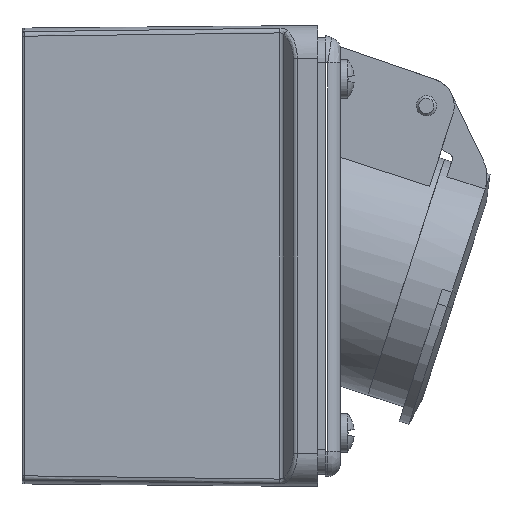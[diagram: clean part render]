
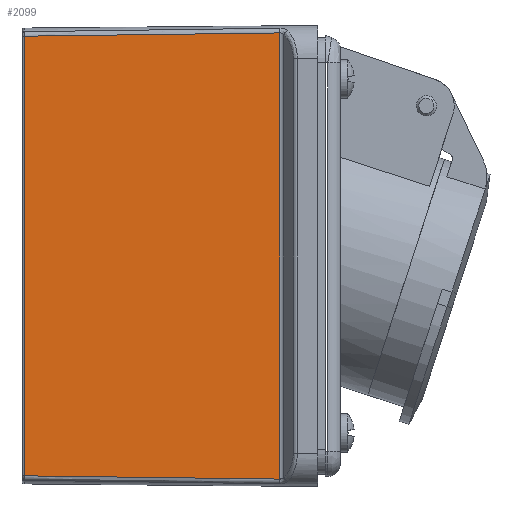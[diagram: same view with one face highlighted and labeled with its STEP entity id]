
A CAD part, front view. The second image highlights one B-rep face of the part: STEP entity #2099.
In plain terms, the highlighted planar face has unit normal (-0.009, -1, 0).
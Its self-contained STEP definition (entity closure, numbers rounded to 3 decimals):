
#1869=B_SPLINE_CURVE_WITH_KNOTS('',3,(#9731,#9732,#9733,#9734),
 .UNSPECIFIED.,.F.,.F.,(4,4),(0.,1.),.UNSPECIFIED.);
#1870=B_SPLINE_CURVE_WITH_KNOTS('',3,(#9738,#9739,#9740,#9741),
 .UNSPECIFIED.,.F.,.F.,(4,4),(0.,1.),.UNSPECIFIED.);
#2099=ADVANCED_FACE('',(#2346),#2219,.F.);
#2219=PLANE('',#5736);
#2346=FACE_OUTER_BOUND('',#2583,.T.);
#2583=EDGE_LOOP('',(#3552,#3553,#3554,#3555));
#3552=ORIENTED_EDGE('',*,*,#4807,.T.);
#3553=ORIENTED_EDGE('',*,*,#4808,.T.);
#3554=ORIENTED_EDGE('',*,*,#4809,.F.);
#3555=ORIENTED_EDGE('',*,*,#4810,.F.);
#4212=VERTEX_POINT('',#9729);
#4213=VERTEX_POINT('',#9730);
#4214=VERTEX_POINT('',#9735);
#4215=VERTEX_POINT('',#9737);
#4807=EDGE_CURVE('',#4212,#4213,#5153,.T.);
#4808=EDGE_CURVE('',#4213,#4214,#1869,.T.);
#4809=EDGE_CURVE('',#4215,#4214,#5154,.T.);
#4810=EDGE_CURVE('',#4212,#4215,#1870,.T.);
#5153=LINE('',#9728,#5413);
#5154=LINE('',#9736,#5414);
#5413=VECTOR('',#6600,1.);
#5414=VECTOR('',#6601,1.);
#5736=AXIS2_PLACEMENT_3D('',#9742,#6602,#6603);
#6600=DIRECTION('',(0.,0.,1.));
#6601=DIRECTION('',(0.,0.,1.));
#6602=DIRECTION('',(0.009,1.,0.));
#6603=DIRECTION('',(0.,0.,1.));
#9728=CARTESIAN_POINT('',(32.392,-50.021,-73.757));
#9729=CARTESIAN_POINT('',(32.392,-50.021,-73.757));
#9730=CARTESIAN_POINT('',(32.392,-50.021,14.507));
#9731=CARTESIAN_POINT('',(32.392,-50.021,14.507));
#9732=CARTESIAN_POINT('',(15.231,-49.871,14.296));
#9733=CARTESIAN_POINT('',(-1.622,-49.724,14.082));
#9734=CARTESIAN_POINT('',(-18.104,-49.58,13.864));
#9735=CARTESIAN_POINT('',(-18.104,-49.58,13.864));
#9736=CARTESIAN_POINT('',(-18.104,-49.58,-73.115));
#9737=CARTESIAN_POINT('',(-18.104,-49.58,-73.115));
#9738=CARTESIAN_POINT('',(32.392,-50.021,-73.757));
#9739=CARTESIAN_POINT('',(15.231,-49.871,-73.547));
#9740=CARTESIAN_POINT('',(-1.622,-49.724,-73.333));
#9741=CARTESIAN_POINT('',(-18.104,-49.58,-73.115));
#9742=CARTESIAN_POINT('',(32.405,-50.021,14.52));
